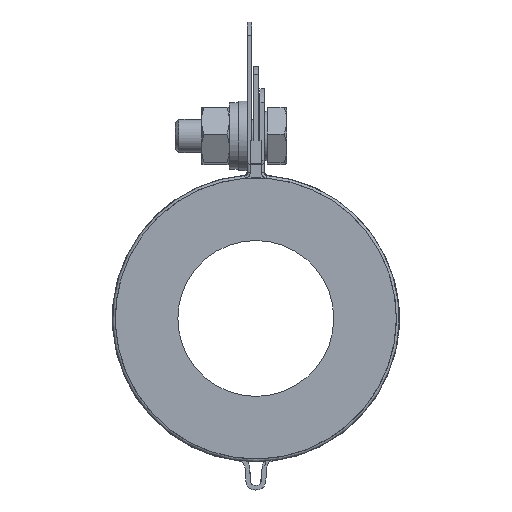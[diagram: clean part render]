
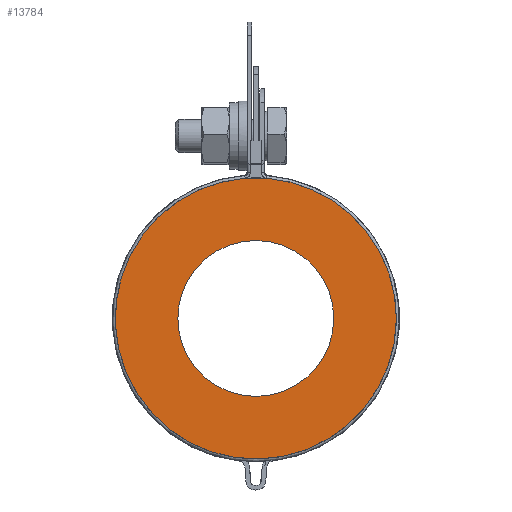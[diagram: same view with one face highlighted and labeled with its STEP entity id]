
A CAD part, front view. The second image highlights one B-rep face of the part: STEP entity #13784.
In plain terms, the highlighted planar face has unit normal (0, -1, 0).
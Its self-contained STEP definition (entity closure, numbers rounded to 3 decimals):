
#260=FACE_BOUND($,#2129,.T.);
#1196=FACE_OUTER_BOUND($,#2128,.T.);
#2128=EDGE_LOOP($,(#11628));
#2129=EDGE_LOOP($,(#11629));
#5029=CIRCLE($,#15042,25.25);
#5034=CIRCLE($,#15174,14.);
#6218=VERTEX_POINT($,#23024);
#6229=VERTEX_POINT($,#23177);
#8017=EDGE_CURVE($,#6218,#6218,#5029,.T.);
#8032=EDGE_CURVE($,#6229,#6229,#5034,.T.);
#11628=ORIENTED_EDGE($,*,*,#8017,.T.);
#11629=ORIENTED_EDGE($,*,*,#8032,.T.);
#12261=PLANE($,#15177);
#13784=ADVANCED_FACE($,(#1196,#260),#12261,.T.);
#15042=AXIS2_PLACEMENT_3D($,#23025,#18786,#18787);
#15174=AXIS2_PLACEMENT_3D($,#23178,#19060,#19061);
#15177=AXIS2_PLACEMENT_3D($,#23181,#19066,#19067);
#18786=DIRECTION('center_axis',(0.,-1.,0.));
#18787=DIRECTION('ref_axis',(-1.,0.,0.));
#19060=DIRECTION('center_axis',(0.,1.,0.));
#19061=DIRECTION('ref_axis',(1.,0.,0.));
#19066=DIRECTION('center_axis',(0.,-1.,0.));
#19067=DIRECTION('ref_axis',(0.,0.,-1.));
#23024=CARTESIAN_POINT('',(25.25,0.,0.));
#23025=CARTESIAN_POINT('Origin',(0.,0.,0.));
#23177=CARTESIAN_POINT('',(-14.,0.,0.));
#23178=CARTESIAN_POINT('Origin',(0.,0.,0.));
#23181=CARTESIAN_POINT('Origin',(0.,0.,0.));
